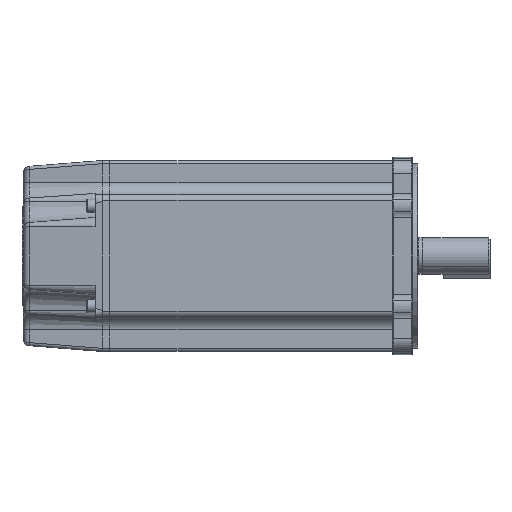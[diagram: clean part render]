
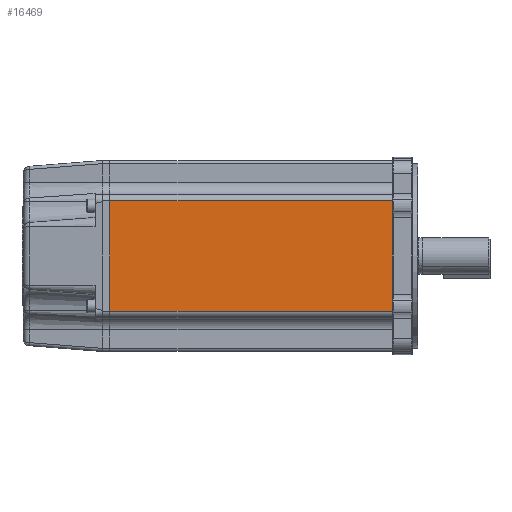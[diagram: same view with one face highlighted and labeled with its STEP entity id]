
A CAD part, front view. The second image highlights one B-rep face of the part: STEP entity #16469.
In plain terms, the highlighted planar face has unit normal (0, -1, 0).
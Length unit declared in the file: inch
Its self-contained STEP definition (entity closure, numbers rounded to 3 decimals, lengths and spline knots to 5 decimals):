
#2432 = ORIENTED_EDGE ( 'NONE', *, *, #134950, .T. ) ;
#6771 = VECTOR ( 'NONE', #26502, 39.37008 ) ;
#14970 = DIRECTION ( 'NONE',  ( 1., 0., 0. ) ) ;
#16469 = ADVANCED_FACE ( 'NONE', ( #143011 ), #79331, .F. ) ;
#17219 = CARTESIAN_POINT ( 'NONE',  ( -6.13, -1.935, -1.935 ) ) ;
#18371 = EDGE_CURVE ( 'NONE', #45379, #75479, #119104, .T. ) ;
#23667 = AXIS2_PLACEMENT_3D ( 'NONE', #17219, #42324, #129334 ) ;
#24511 = LINE ( 'NONE', #128162, #119930 ) ;
#26502 = DIRECTION ( 'NONE',  ( 0., 0., 1. ) ) ;
#29160 = ORIENTED_EDGE ( 'NONE', *, *, #18371, .F. ) ;
#42324 = DIRECTION ( 'NONE',  ( 0., 1., 0. ) ) ;
#45379 = VERTEX_POINT ( 'NONE', #103777 ) ;
#55704 = DIRECTION ( 'NONE',  ( -1., 0., 0. ) ) ;
#57722 = EDGE_CURVE ( 'NONE', #45379, #101343, #24511, .T. ) ;
#70414 = EDGE_LOOP ( 'NONE', ( #2432, #132540, #29160, #159712 ) ) ;
#72313 = CARTESIAN_POINT ( 'NONE',  ( -6.13, -1.935, -1.935 ) ) ;
#75479 = VERTEX_POINT ( 'NONE', #95449 ) ;
#79331 = PLANE ( 'NONE',  #23667 ) ;
#80142 = VECTOR ( 'NONE', #55704, 39.37008 ) ;
#84859 = DIRECTION ( 'NONE',  ( 0., 0., 1. ) ) ;
#89069 = CARTESIAN_POINT ( 'NONE',  ( -0.4, -1.935, 1.12 ) ) ;
#95449 = CARTESIAN_POINT ( 'NONE',  ( -6.13, -1.935, 1.12 ) ) ;
#98522 = EDGE_CURVE ( 'NONE', #152172, #75479, #117107, .T. ) ;
#101078 = CARTESIAN_POINT ( 'NONE',  ( -0.4, -1.935, -1.935 ) ) ;
#101343 = VERTEX_POINT ( 'NONE', #122949 ) ;
#102202 = LINE ( 'NONE', #101078, #6771 ) ;
#103777 = CARTESIAN_POINT ( 'NONE',  ( -6.13, -1.935, -1.12 ) ) ;
#105282 = CARTESIAN_POINT ( 'NONE',  ( -6.13, -1.935, 1.12 ) ) ;
#117107 = LINE ( 'NONE', #105282, #80142 ) ;
#119104 = LINE ( 'NONE', #72313, #126917 ) ;
#119930 = VECTOR ( 'NONE', #14970, 39.37008 ) ;
#122949 = CARTESIAN_POINT ( 'NONE',  ( -0.4, -1.935, -1.12 ) ) ;
#126917 = VECTOR ( 'NONE', #84859, 39.37008 ) ;
#128162 = CARTESIAN_POINT ( 'NONE',  ( -0.4, -1.935, -1.12 ) ) ;
#129334 = DIRECTION ( 'NONE',  ( 0., 0., 1. ) ) ;
#132540 = ORIENTED_EDGE ( 'NONE', *, *, #98522, .T. ) ;
#134950 = EDGE_CURVE ( 'NONE', #101343, #152172, #102202, .T. ) ;
#143011 = FACE_OUTER_BOUND ( 'NONE', #70414, .T. ) ;
#152172 = VERTEX_POINT ( 'NONE', #89069 ) ;
#159712 = ORIENTED_EDGE ( 'NONE', *, *, #57722, .T. ) ;
